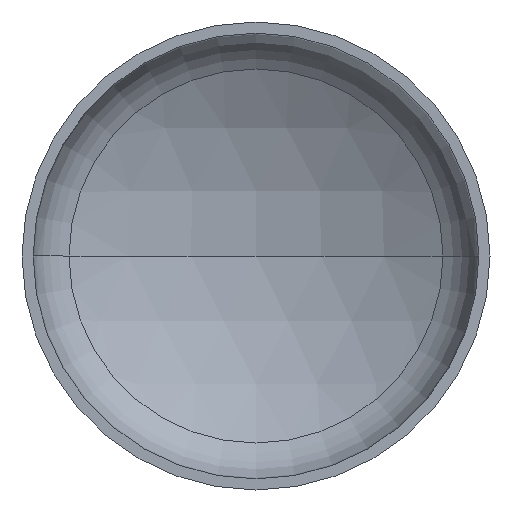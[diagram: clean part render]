
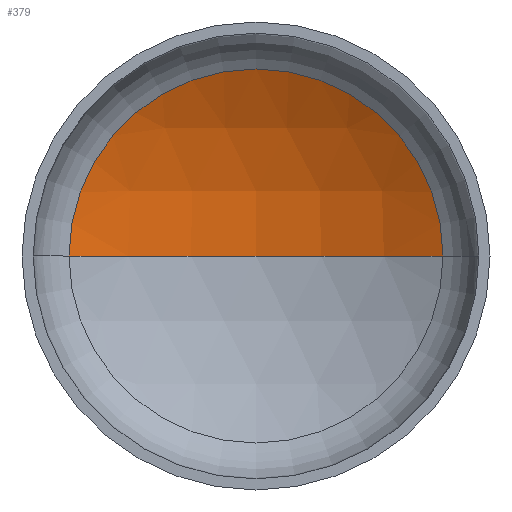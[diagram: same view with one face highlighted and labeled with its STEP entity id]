
A CAD part, front view. The second image highlights one B-rep face of the part: STEP entity #379.
In plain terms, the highlighted spherical face has radius 1280 mm.
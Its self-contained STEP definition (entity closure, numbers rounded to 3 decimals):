
#4 = CIRCLE ( 'NONE', #13, 1280. ) ;
#13 = AXIS2_PLACEMENT_3D ( 'NONE', #392, #256, #352 ) ;
#16 = AXIS2_PLACEMENT_3D ( 'NONE', #325, #184, #185 ) ;
#25 = AXIS2_PLACEMENT_3D ( 'NONE', #175, #176, #358 ) ;
#31 = EDGE_LOOP ( 'NONE', ( #173, #142, #115 ) ) ;
#49 = VERTEX_POINT ( 'NONE', #250 ) ;
#109 = VERTEX_POINT ( 'NONE', #229 ) ;
#112 = VERTEX_POINT ( 'NONE', #227 ) ;
#115 = ORIENTED_EDGE ( 'NONE', *, *, #336, .T. ) ;
#140 = DIRECTION ( 'NONE',  ( 0., 0., -1. ) ) ;
#142 = ORIENTED_EDGE ( 'NONE', *, *, #343, .T. ) ;
#149 = CARTESIAN_POINT ( 'NONE',  ( 0., -776.625, 0. ) ) ;
#169 = DIRECTION ( 'NONE',  ( -1., 0., 0. ) ) ;
#173 = ORIENTED_EDGE ( 'NONE', *, *, #346, .F. ) ;
#175 = CARTESIAN_POINT ( 'NONE',  ( 0., 332.245, 0. ) ) ;
#176 = DIRECTION ( 'NONE',  ( 0., -1., 0. ) ) ;
#184 = DIRECTION ( 'NONE',  ( 0., 0., -1. ) ) ;
#185 = DIRECTION ( 'NONE',  ( -1., 0., 0. ) ) ;
#227 = CARTESIAN_POINT ( 'NONE',  ( 0., 503.375, 0. ) ) ;
#229 = CARTESIAN_POINT ( 'NONE',  ( -639.382, 332.245, 0. ) ) ;
#243 = CIRCLE ( 'NONE', #16, 1280. ) ;
#250 = CARTESIAN_POINT ( 'NONE',  ( 639.382, 332.245, 0. ) ) ;
#256 = DIRECTION ( 'NONE',  ( 0., 0., 1. ) ) ;
#279 = SPHERICAL_SURFACE ( 'NONE', #389, 1280. ) ;
#325 = CARTESIAN_POINT ( 'NONE',  ( 0., -776.625, 0. ) ) ;
#336 = EDGE_CURVE ( 'NONE', #49, #109, #370, .T. ) ;
#343 = EDGE_CURVE ( 'NONE', #112, #49, #243, .T. ) ;
#346 = EDGE_CURVE ( 'NONE', #112, #109, #4, .T. ) ;
#352 = DIRECTION ( 'NONE',  ( 1., 0., 0. ) ) ;
#358 = DIRECTION ( 'NONE',  ( 1., 0., 0. ) ) ;
#370 = CIRCLE ( 'NONE', #25, 639.382 ) ;
#379 = ADVANCED_FACE ( 'NONE', ( #406 ), #279, .F. ) ;
#389 = AXIS2_PLACEMENT_3D ( 'NONE', #149, #140, #169 ) ;
#392 = CARTESIAN_POINT ( 'NONE',  ( 0., -776.625, 0. ) ) ;
#406 = FACE_OUTER_BOUND ( 'NONE', #31, .T. ) ;
